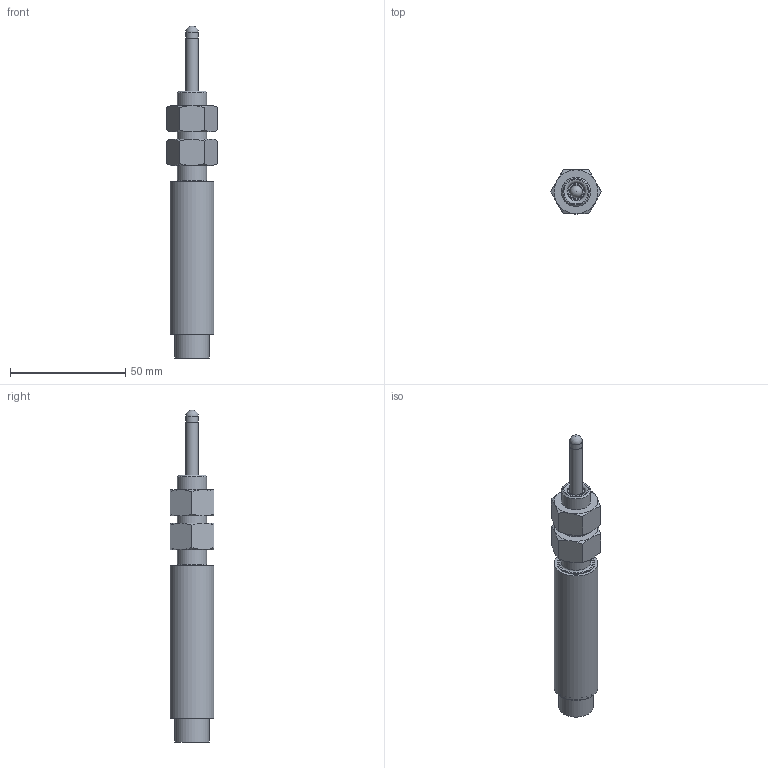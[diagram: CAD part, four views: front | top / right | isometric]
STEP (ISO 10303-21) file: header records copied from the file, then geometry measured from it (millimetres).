
FILE_DESCRIPTION(/* description */ (''),/* implementation_level */ '2;1');
FILE_NAME(/* name */ 'F:\GH SERIES\GH-750-A-XXXX\GH-750-A-125\GH-750-A-125 PACK N GO\GH-750-A-125 ASS''Y.iam.stp',/* time_stamp */ '2021-11-17T12:39:53-05:00',/* author */ ('Justin'),/* organization */ (''),/* preprocessor_version */ 'ST-DEVELOPER v18.1',/* originating_system */ 'Autodesk Inventor 2022',/* authorisation */ '');
FILE_SCHEMA (('AUTOMOTIVE_DESIGN { 1 0 10303 214 3 1 1 }'));
Length unit declared in the file: inch
Products named in the file (4): GH-750-A-125 ASS'Y; AS 2465 - 1/2  UNF; GH-750-A-125 HOUSING_SW; GH-750-A-125 SHAFT_SW
Assembly tree (4 placements, depth 2):
  GH-750-A-125 ASS'Y
    AS 2465 - 1/2  UNF  x2
    GH-750-A-125 HOUSING_SW
    GH-750-A-125 SHAFT_SW
Bounding box: 22 x 19.05 x 143.92 mm (x, y, z)
Volume: 17400.2 mm3; surface area: 18466.6 mm2
Topology: 12 solids, 12 shells, 172 faces, 343 edges, 216 vertices
Faces by surface type: plane 69, cylinder 53, cone 43, torus 4, bspline 2, sphere 1
Full cylindrical faces by diameter (mm): 0.762 x12, 2.845 x3, 4.826 x2, 5.334 x4, 5.397 x1, 7.671 x2, 7.874 x1, 11.328 x2, 12.7 x1, 13.208 x1, 14.986 x1, 15.748 x2, 16.51 x1, 17.069 x1, 18.034 x1, 18.415 x3, 19.05 x1
Entity records: 4461 total; most frequent: CARTESIAN_POINT 957, DIRECTION 733, ORIENTED_EDGE 582, AXIS2_PLACEMENT_3D 311, EDGE_CURVE 291, VERTEX_POINT 187, EDGE_LOOP 186, CIRCLE 156
